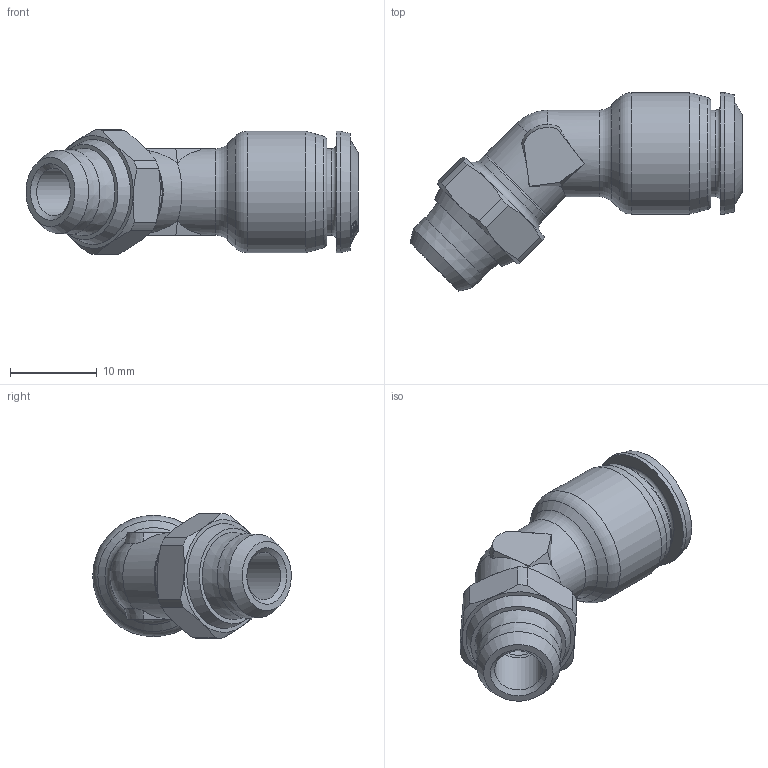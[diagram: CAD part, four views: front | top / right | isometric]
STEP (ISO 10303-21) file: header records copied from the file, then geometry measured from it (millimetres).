
FILE_DESCRIPTION (( 'STEP AP214' ), '1' );
FILE_NAME ('5517000008A.STEP', '2013-10-15T12:16:34', ( 'ST01' ), ( '' ), 'SwSTEP 2.0', 'SolidWorks 2012', '' );
FILE_SCHEMA (( 'AUTOMOTIVE_DESIGN' ));
Length unit declared in the file: millimetre
Products named in the file (1): 5517000008A
Bounding box: 38.3 x 22.9 x 14.4 mm (x, y, z)
Surface area: 2433.4 mm2 (no closed solid volume)
Topology: 0 solids, 7 shells, 188 faces, 470 edges, 303 vertices
Faces by surface type: bspline 95, cone 44, plane 28, cylinder 14, torus 6, sphere 1
Full cylindrical faces by diameter (mm): 5.5 x2, 8.2 x1, 10 x3, 14 x2
Entity records: 12728 total; most frequent: CARTESIAN_POINT 7192, ORIENTED_EDGE 855, EDGE_CURVE 439, DIRECTION 362, B_SPLINE_CURVE_WITH_KNOTS 324, VERTEX_POINT 301, EDGE_LOOP 240, FACE_OUTER_BOUND 202
